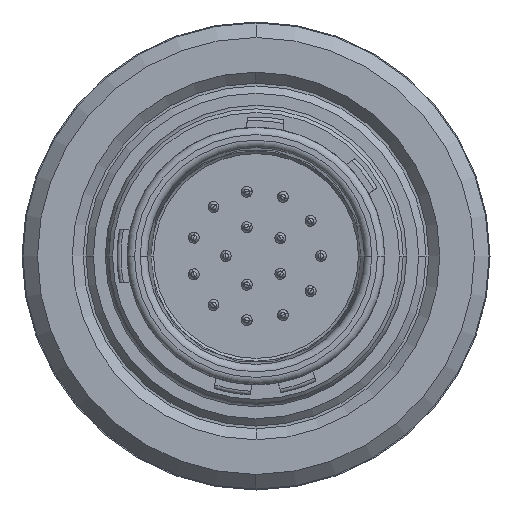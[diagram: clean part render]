
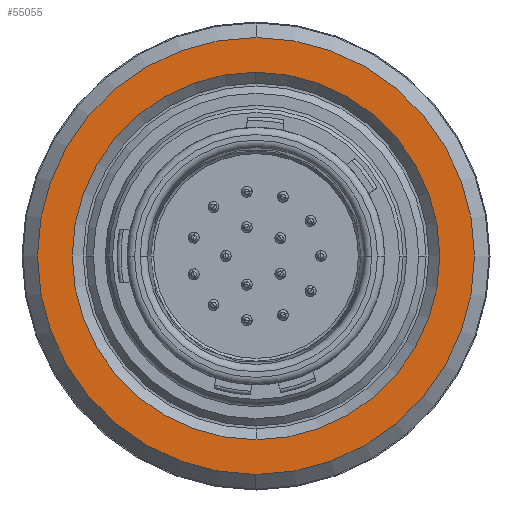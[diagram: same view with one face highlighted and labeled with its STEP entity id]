
A CAD part, left-side view. The second image highlights one B-rep face of the part: STEP entity #55055.
In plain terms, the highlighted planar face has unit normal (-1, 0, 0).
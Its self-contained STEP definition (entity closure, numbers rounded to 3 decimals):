
#15508=CARTESIAN_POINT('',(-7.5,0.,0.));
#15509=DIRECTION('',(1.,0.,0.));
#15510=DIRECTION('',(0.,0.,-1.));
#15511=AXIS2_PLACEMENT_3D('',#15508,#15509,#15510);
#15513=CARTESIAN_POINT('',(-7.5,0.,0.));
#15514=DIRECTION('',(1.,0.,0.));
#15515=DIRECTION('',(0.,1.,0.));
#15516=AXIS2_PLACEMENT_3D('',#15513,#15514,#15515);
#15518=CARTESIAN_POINT('',(-7.5,0.,0.));
#15519=DIRECTION('',(1.,0.,0.));
#15520=DIRECTION('',(0.,0.,1.));
#15521=AXIS2_PLACEMENT_3D('',#15518,#15519,#15520);
#15523=CARTESIAN_POINT('',(-7.5,0.,0.));
#15524=DIRECTION('',(1.,0.,0.));
#15525=DIRECTION('',(0.,-1.,0.));
#15526=AXIS2_PLACEMENT_3D('',#15523,#15524,#15525);
#15528=CARTESIAN_POINT('',(-7.5,0.,0.));
#15529=DIRECTION('',(-1.,0.,0.));
#15530=DIRECTION('',(0.,0.,-1.));
#15531=AXIS2_PLACEMENT_3D('',#15528,#15529,#15530);
#15533=CARTESIAN_POINT('',(-7.5,0.,0.));
#15534=DIRECTION('',(-1.,0.,0.));
#15535=DIRECTION('',(0.,-1.,0.));
#15536=AXIS2_PLACEMENT_3D('',#15533,#15534,#15535);
#15538=CARTESIAN_POINT('',(-7.5,0.,0.));
#15539=DIRECTION('',(-1.,0.,0.));
#15540=DIRECTION('',(0.,0.,1.));
#15541=AXIS2_PLACEMENT_3D('',#15538,#15539,#15540);
#15543=CARTESIAN_POINT('',(-7.5,0.,0.));
#15544=DIRECTION('',(-1.,0.,0.));
#15545=DIRECTION('',(0.,1.,0.));
#15546=AXIS2_PLACEMENT_3D('',#15543,#15544,#15545);
#25053=CARTESIAN_POINT('',(-7.5,0.,-5.975));
#25054=VERTEX_POINT('',#25053);
#25055=CARTESIAN_POINT('',(-7.5,0.,5.975));
#25056=CARTESIAN_POINT('',(-7.5,-5.975,0.));
#25057=VERTEX_POINT('',#25055);
#25058=VERTEX_POINT('',#25056);
#25059=CARTESIAN_POINT('',(-7.5,5.975,0.));
#25060=VERTEX_POINT('',#25059);
#25061=CARTESIAN_POINT('',(-7.5,-5.025,0.));
#25062=CARTESIAN_POINT('',(-7.5,0.,5.025));
#25063=VERTEX_POINT('',#25061);
#25064=VERTEX_POINT('',#25062);
#25065=CARTESIAN_POINT('',(-7.5,0.,-5.025));
#25066=VERTEX_POINT('',#25065);
#25067=CARTESIAN_POINT('',(-7.5,5.025,0.));
#25068=VERTEX_POINT('',#25067);
#55034=CARTESIAN_POINT('',(-7.5,0.,0.));
#55035=DIRECTION('',(-1.,0.,0.));
#55036=DIRECTION('',(0.,0.,1.));
#55037=AXIS2_PLACEMENT_3D('',#55034,#55035,#55036);
#55038=PLANE('',#55037);
#55039=ORIENTED_EDGE('',*,*,#55021,.T.);
#55040=ORIENTED_EDGE('',*,*,#55019,.T.);
#55041=ORIENTED_EDGE('',*,*,#54997,.T.);
#55042=ORIENTED_EDGE('',*,*,#54995,.T.);
#55043=EDGE_LOOP('',(#55039,#55040,#55041,#55042));
#55044=FACE_OUTER_BOUND('',#55043,.F.);
#55046=ORIENTED_EDGE('',*,*,#55045,.T.);
#55048=ORIENTED_EDGE('',*,*,#55047,.T.);
#55050=ORIENTED_EDGE('',*,*,#55049,.T.);
#55052=ORIENTED_EDGE('',*,*,#55051,.T.);
#55053=EDGE_LOOP('',(#55046,#55048,#55050,#55052));
#55054=FACE_BOUND('',#55053,.F.);
#15512=CIRCLE('',#15511,5.975);
#15517=CIRCLE('',#15516,5.975);
#15522=CIRCLE('',#15521,5.975);
#15527=CIRCLE('',#15526,5.975);
#15532=CIRCLE('',#15531,5.025);
#15537=CIRCLE('',#15536,5.025);
#15542=CIRCLE('',#15541,5.025);
#15547=CIRCLE('',#15546,5.025);
#54995=EDGE_CURVE('',#25058,#25054,#15527,.T.);
#54997=EDGE_CURVE('',#25057,#25058,#15522,.T.);
#55019=EDGE_CURVE('',#25060,#25057,#15517,.T.);
#55021=EDGE_CURVE('',#25054,#25060,#15512,.T.);
#55045=EDGE_CURVE('',#25066,#25063,#15532,.T.);
#55047=EDGE_CURVE('',#25063,#25064,#15537,.T.);
#55049=EDGE_CURVE('',#25064,#25068,#15542,.T.);
#55051=EDGE_CURVE('',#25068,#25066,#15547,.T.);
#55055=ADVANCED_FACE('',(#55044,#55054),#55038,.T.);
